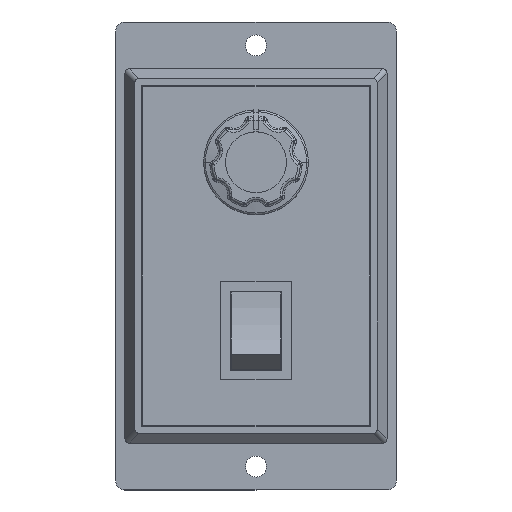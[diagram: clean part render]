
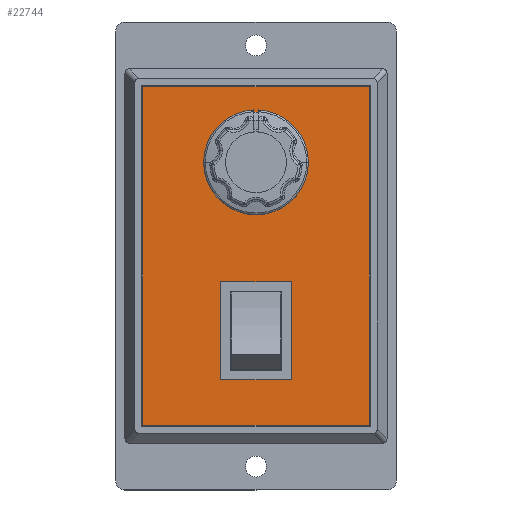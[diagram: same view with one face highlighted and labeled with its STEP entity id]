
A CAD part, top view. The second image highlights one B-rep face of the part: STEP entity #22744.
In plain terms, the highlighted planar face has unit normal (0, 0, 1).
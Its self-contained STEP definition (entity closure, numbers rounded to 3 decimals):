
#69 = CARTESIAN_POINT ( 'NONE',  ( -5., 20., 7.5 ) ) ;
#304 = ORIENTED_EDGE ( 'NONE', *, *, #5809, .F. ) ;
#519 = DIRECTION ( 'NONE',  ( 0., 1., 0. ) ) ;
#769 = EDGE_CURVE ( 'NONE', #23393, #24936, #16482, .T. ) ;
#1360 = AXIS2_PLACEMENT_3D ( 'NONE', #24538, #18709, #5262 ) ;
#1516 = LINE ( 'NONE', #24486, #1780 ) ;
#1780 = VECTOR ( 'NONE', #17487, 1000. ) ;
#2603 = CARTESIAN_POINT ( 'NONE',  ( 24.202, -36.202, 7.5 ) ) ;
#2610 = EDGE_LOOP ( 'NONE', ( #19181, #2624, #19397, #2702 ) ) ;
#2624 = ORIENTED_EDGE ( 'NONE', *, *, #23434, .T. ) ;
#2694 = CARTESIAN_POINT ( 'NONE',  ( 7.5, -26.5, 7.5 ) ) ;
#2702 = ORIENTED_EDGE ( 'NONE', *, *, #769, .T. ) ;
#2726 = VECTOR ( 'NONE', #19635, 1000. ) ;
#2782 = CIRCLE ( 'NONE', #1360, 5. ) ;
#3058 = VECTOR ( 'NONE', #8870, 1000. ) ;
#3195 = EDGE_CURVE ( 'NONE', #20720, #23393, #25826, .T. ) ;
#3271 = EDGE_CURVE ( 'NONE', #8188, #28180, #1516, .T. ) ;
#3490 = ORIENTED_EDGE ( 'NONE', *, *, #9933, .F. ) ;
#3982 = CARTESIAN_POINT ( 'NONE',  ( 5., 20., 7.5 ) ) ;
#4228 = EDGE_CURVE ( 'NONE', #28180, #15614, #10789, .T. ) ;
#4922 = AXIS2_PLACEMENT_3D ( 'NONE', #25248, #7196, #23306 ) ;
#5052 = VECTOR ( 'NONE', #18518, 1000. ) ;
#5061 = CIRCLE ( 'NONE', #24657, 5. ) ;
#5073 = VECTOR ( 'NONE', #19130, 1000. ) ;
#5262 = DIRECTION ( 'NONE',  ( 1., 0., 0. ) ) ;
#5809 = EDGE_CURVE ( 'NONE', #15614, #22140, #27661, .T. ) ;
#5954 = ORIENTED_EDGE ( 'NONE', *, *, #11105, .F. ) ;
#6678 = DIRECTION ( 'NONE',  ( 1., 0., 0. ) ) ;
#6691 = VECTOR ( 'NONE', #25721, 1000. ) ;
#7016 = CARTESIAN_POINT ( 'NONE',  ( -7.5, -5.5, 7.5 ) ) ;
#7029 = VERTEX_POINT ( 'NONE', #69 ) ;
#7196 = DIRECTION ( 'NONE',  ( 0., 0., 1. ) ) ;
#7338 = CARTESIAN_POINT ( 'NONE',  ( 24.202, 36.202, 7.5 ) ) ;
#7339 = PLANE ( 'NONE',  #4922 ) ;
#8188 = VERTEX_POINT ( 'NONE', #27104 ) ;
#8870 = DIRECTION ( 'NONE',  ( 0., -1., 0. ) ) ;
#8913 = CARTESIAN_POINT ( 'NONE',  ( 0., 20., 7.5 ) ) ;
#9116 = ORIENTED_EDGE ( 'NONE', *, *, #3271, .F. ) ;
#9438 = FACE_BOUND ( 'NONE', #17228, .T. ) ;
#9933 = EDGE_CURVE ( 'NONE', #29002, #7029, #5061, .T. ) ;
#9952 = CARTESIAN_POINT ( 'NONE',  ( -7.5, -26.5, 7.5 ) ) ;
#10449 = CARTESIAN_POINT ( 'NONE',  ( -24.202, -36.202, 7.5 ) ) ;
#10789 = LINE ( 'NONE', #21867, #2726 ) ;
#11105 = EDGE_CURVE ( 'NONE', #7029, #29002, #2782, .T. ) ;
#11367 = EDGE_CURVE ( 'NONE', #22140, #8188, #14040, .T. ) ;
#11548 = CARTESIAN_POINT ( 'NONE',  ( -24.202, 36.202, 7.5 ) ) ;
#14040 = LINE ( 'NONE', #7016, #5052 ) ;
#14202 = ORIENTED_EDGE ( 'NONE', *, *, #4228, .F. ) ;
#14582 = CARTESIAN_POINT ( 'NONE',  ( 7.5, -5.5, 7.5 ) ) ;
#15195 = DIRECTION ( 'NONE',  ( 0., 0., 1. ) ) ;
#15614 = VERTEX_POINT ( 'NONE', #2694 ) ;
#15709 = ORIENTED_EDGE ( 'NONE', *, *, #11367, .F. ) ;
#16112 = EDGE_LOOP ( 'NONE', ( #14202, #9116, #15709, #304 ) ) ;
#16355 = VECTOR ( 'NONE', #519, 1000. ) ;
#16482 = LINE ( 'NONE', #22632, #16355 ) ;
#17228 = EDGE_LOOP ( 'NONE', ( #5954, #3490 ) ) ;
#17487 = DIRECTION ( 'NONE',  ( 0., -1., 0. ) ) ;
#17995 = EDGE_CURVE ( 'NONE', #24936, #25572, #27772, .T. ) ;
#18518 = DIRECTION ( 'NONE',  ( -1., 0., 0. ) ) ;
#18709 = DIRECTION ( 'NONE',  ( 0., 0., 1. ) ) ;
#19130 = DIRECTION ( 'NONE',  ( 1., 0., 0. ) ) ;
#19181 = ORIENTED_EDGE ( 'NONE', *, *, #17995, .T. ) ;
#19397 = ORIENTED_EDGE ( 'NONE', *, *, #3195, .T. ) ;
#19635 = DIRECTION ( 'NONE',  ( 1., 0., 0. ) ) ;
#20368 = CARTESIAN_POINT ( 'NONE',  ( -24.202, -36.202, 7.5 ) ) ;
#20656 = DIRECTION ( 'NONE',  ( -1., 0., 0. ) ) ;
#20720 = VERTEX_POINT ( 'NONE', #20368 ) ;
#20922 = CARTESIAN_POINT ( 'NONE',  ( 24.202, 36.202, 7.5 ) ) ;
#21867 = CARTESIAN_POINT ( 'NONE',  ( -7.5, -26.5, 7.5 ) ) ;
#22140 = VERTEX_POINT ( 'NONE', #14582 ) ;
#22632 = CARTESIAN_POINT ( 'NONE',  ( 24.202, -36.202, 7.5 ) ) ;
#22744 = ADVANCED_FACE ( 'NONE', ( #9438, #27626, #25822 ), #7339, .T. ) ;
#23306 = DIRECTION ( 'NONE',  ( 1., 0., 0. ) ) ;
#23393 = VERTEX_POINT ( 'NONE', #2603 ) ;
#23434 = EDGE_CURVE ( 'NONE', #25572, #20720, #26536, .T. ) ;
#24486 = CARTESIAN_POINT ( 'NONE',  ( -7.5, -5.5, 7.5 ) ) ;
#24538 = CARTESIAN_POINT ( 'NONE',  ( 0., 20., 7.5 ) ) ;
#24657 = AXIS2_PLACEMENT_3D ( 'NONE', #8913, #15195, #6678 ) ;
#24936 = VERTEX_POINT ( 'NONE', #20922 ) ;
#25248 = CARTESIAN_POINT ( 'NONE',  ( 0., 0., 7.5 ) ) ;
#25572 = VERTEX_POINT ( 'NONE', #27533 ) ;
#25721 = DIRECTION ( 'NONE',  ( 0., 1., 0. ) ) ;
#25822 = FACE_BOUND ( 'NONE', #16112, .T. ) ;
#25826 = LINE ( 'NONE', #10449, #5073 ) ;
#26536 = LINE ( 'NONE', #11548, #3058 ) ;
#27104 = CARTESIAN_POINT ( 'NONE',  ( -7.5, -5.5, 7.5 ) ) ;
#27533 = CARTESIAN_POINT ( 'NONE',  ( -24.202, 36.202, 7.5 ) ) ;
#27626 = FACE_OUTER_BOUND ( 'NONE', #2610, .T. ) ;
#27661 = LINE ( 'NONE', #27809, #6691 ) ;
#27772 = LINE ( 'NONE', #7338, #27902 ) ;
#27809 = CARTESIAN_POINT ( 'NONE',  ( 7.5, -5.5, 7.5 ) ) ;
#27902 = VECTOR ( 'NONE', #20656, 1000. ) ;
#28180 = VERTEX_POINT ( 'NONE', #9952 ) ;
#29002 = VERTEX_POINT ( 'NONE', #3982 ) ;
